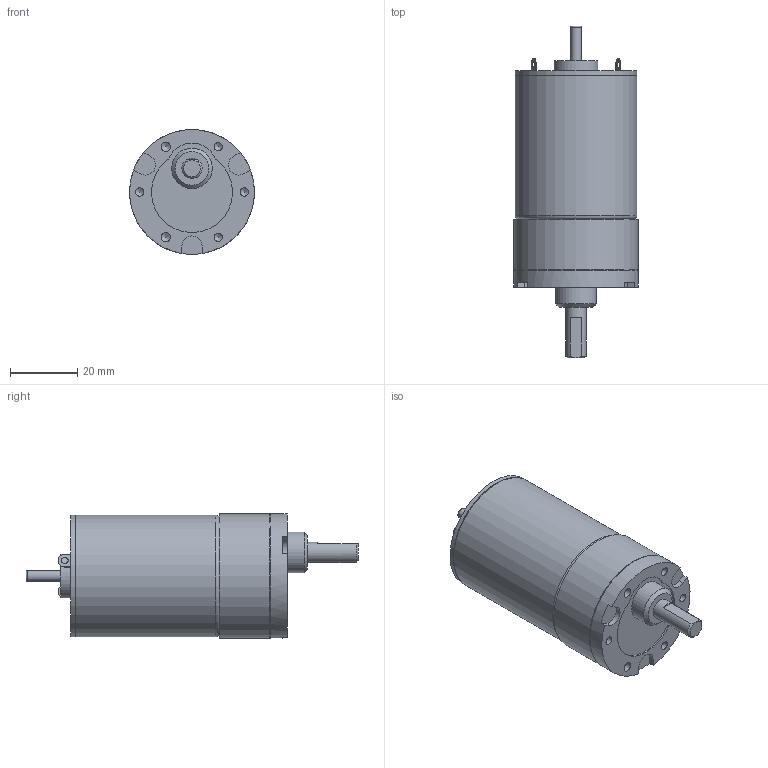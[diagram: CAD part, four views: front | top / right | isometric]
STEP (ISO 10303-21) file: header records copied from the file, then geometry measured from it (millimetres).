
FILE_DESCRIPTION((''),'2;1');
FILE_NAME('C:\Documents and Settings\SSEGAWA\デスクトップ\TP-3644L-KS-2.STP','2013-07-26T19:02:10',('SSEGAWA'),(''),'Autodesk Inventor 2010','Autodesk Inventor 2010','');
FILE_SCHEMA(('CONFIG_CONTROL_DESIGN'));
Length unit declared in the file: millimetre
Products named in the file (1): tp_3644l_ks_2_Shrinkwrap_1
Bounding box: 37 x 98.4 x 37 mm (x, y, z)
Volume: 67476.3 mm3; surface area: 11060.5 mm2
Topology: 5 solids, 5 shells, 80 faces, 181 edges, 121 vertices
Faces by surface type: plane 37, bspline 20, cylinder 19, cone 2, torus 2
Full cylindrical faces by diameter (mm): 3 x1, 3.175 x1, 3.5 x1, 6 x1, 12 x1, 13 x1, 35.6 x1, 36 x2, 36.6 x1, 37 x2
Entity records: 2254 total; most frequent: CARTESIAN_POINT 642, DIRECTION 311, ORIENTED_EDGE 242, AXIS2_PLACEMENT_3D 131, EDGE_LOOP 129, EDGE_CURVE 121, VERTEX_POINT 96, STYLED_ITEM 85
